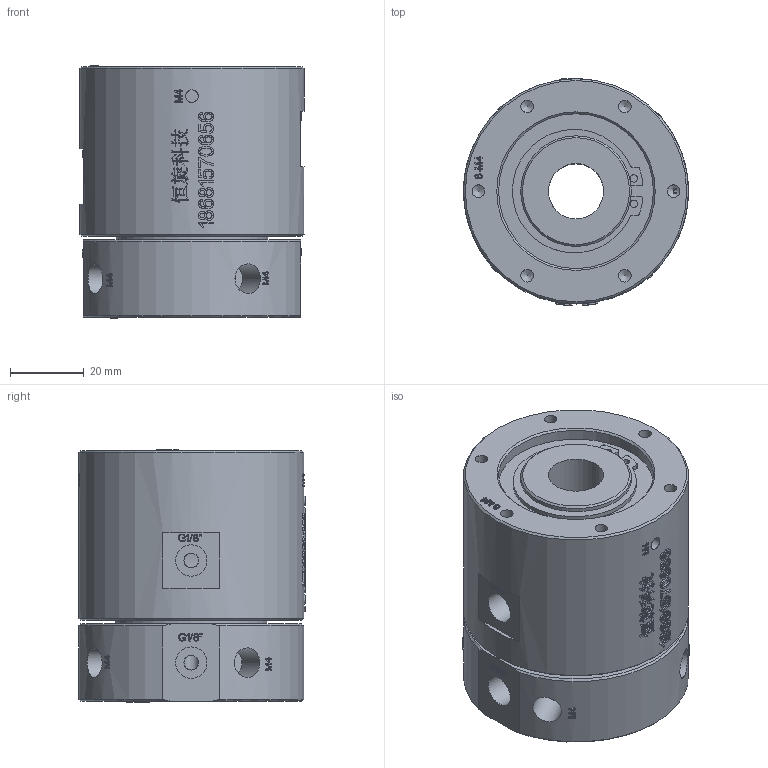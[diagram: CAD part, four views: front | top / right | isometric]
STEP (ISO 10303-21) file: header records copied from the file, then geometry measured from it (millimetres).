
FILE_DESCRIPTION(/* description */ (''),/* implementation_level */ '2;1');
FILE_NAME(/* name */ 'HQ0201-D15-3D模型.stp',/* time_stamp */ '2025-08-05T10:48:07+08:00',/* author */ (''),/* organization */ (''),/* preprocessor_version */ 'ST-DEVELOPER v16.7',/* originating_system */ 'SIEMENS PLM Software NX 12.0',/* authorisation */ '');
FILE_SCHEMA (('AUTOMOTIVE_DESIGN { 1 0 10303 214 3 1 1 1 }'));
Products named in the file (1): Admi16E026DChw7v
Bounding box: 61 x 61.58 x 68.4 mm (x, y, z)
Volume: 175921.7 mm3; surface area: 30514.5 mm2
Topology: 1 solids, 1 shells, 1428 faces, 3850 edges, 2567 vertices
Faces by surface type: plane 660, extrusion 603, cylinder 76, bspline 70, cone 19
Full cylindrical faces by diameter (mm): 2 x2, 3.4 x16, 4 x6, 4.1 x2, 4.2 x2, 8 x4, 8.5 x4, 15 x1, 28 x1, 30 x1, 41 x1, 42 x1, 47 x1, 61 x1
Entity records: 53523 total; most frequent: CARTESIAN_POINT 23066, ORIENTED_EDGE 7524, EDGE_CURVE 3762, DIRECTION 3603, B_SPLINE_CURVE_WITH_KNOTS 3264, VERTEX_POINT 2549, EDGE_LOOP 1641, ADVANCED_FACE 1428
